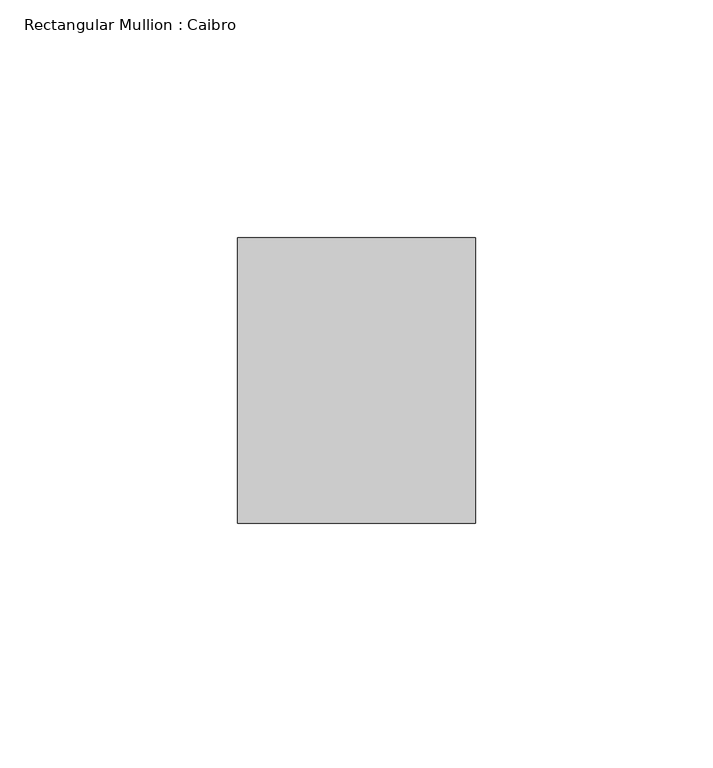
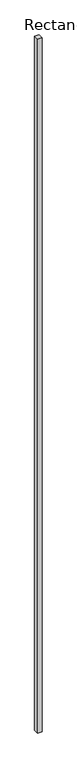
"""IFC4 building model written with IfcOpenShell, lengths in millimetres: member geometry, Rectangular Mullion : Caibro."""

import ifcopenshell
import ifcopenshell.guid

model = None  # the IFC model being written
_history = None  # IfcOwnerHistory: only IFC2X3 demands one
_inside = {}  # id of a spatial element -> (the spatial element, [elements in it])
_under = {}  # id of a project, library or spatial element -> (it, [spatial elements below it])
_declared = {}  # id of a project -> (the project, [libraries it declares])
_typed = {}  # id of a type object -> (the type object, [elements of that type])
_made_of = {}  # id of a material, layer set ... -> (it, [elements and type objects made of it])


def new_model(schema):
    """Start an empty IFC model of exactly this schema.

    Asked for "IFC4X3", IfcOpenShell would pick the latest addendum, in which some entities
    have other attributes; the version numbers below select the first issue.
    IFC2X3 requires an IfcOwnerHistory on every rooted entity: one is made here for all.
    """
    global model, _history
    if schema == "IFC4X3":
        model = ifcopenshell.file(schema_version=(4, 3, 0, 0))
    else:
        model = ifcopenshell.file(schema=schema)
    _inside.clear()
    _under.clear()
    _declared.clear()
    _typed.clear()
    _made_of.clear()
    _history = None
    if model.schema == "IFC2X3":
        org = make("IfcOrganization", Name="unknown")
        user = make(
            "IfcPersonAndOrganization",
            ThePerson=make("IfcPerson", FamilyName="unknown"),
            TheOrganization=org,
        )
        app = make(
            "IfcApplication",
            ApplicationDeveloper=org,
            Version="unknown",
            ApplicationFullName="unknown",
            ApplicationIdentifier="unknown",
        )
        _history = make(
            "IfcOwnerHistory",
            OwningUser=user,
            OwningApplication=app,
            ChangeAction="ADDED",
            CreationDate=0,
        )
    return model


def make(cls, **values):
    """One entity of the class cls with the attributes given. An attribute that is None is left unset."""
    return model.create_entity(
        cls, **{name: value for name, value in values.items() if value is not None}
    )


def rooted(cls, **values):
    """An entity with a GlobalId (a new one), such as an element, a storey or a relation."""
    return make(cls, GlobalId=ifcopenshell.guid.new(), OwnerHistory=_history, **values)


def si_unit(unit_type, name, prefix=None):
    """IfcSIUnit, for example si_unit("LENGTHUNIT", "METRE", prefix="MILLI")."""
    return make("IfcSIUnit", UnitType=unit_type, Prefix=prefix, Name=name)


def assignment(units):
    """IfcUnitAssignment: the units of a project."""
    return None if units is None else make("IfcUnitAssignment", Units=units)


def point(xyz):
    """IfcCartesianPoint."""
    return None if xyz is None else make("IfcCartesianPoint", Coordinates=xyz)


def direction(xyz):
    """IfcDirection."""
    return None if xyz is None else make("IfcDirection", DirectionRatios=xyz)


def frame(location, z_axis=None, x_axis=None):
    """IfcAxis2Placement3D, a coordinate frame: its origin and axes. An axis left out is left unset."""
    return make(
        "IfcAxis2Placement3D",
        Location=point(location),
        Axis=direction(z_axis),
        RefDirection=direction(x_axis),
    )


def origin():
    """The frame at (0, 0, 0) with its axes left unset."""
    return frame((0.0, 0.0, 0.0))


def place(relative_to, where):
    """IfcLocalPlacement: puts the frame where relative to a parent placement (None: the world)."""
    return make(
        "IfcLocalPlacement", PlacementRelTo=relative_to, RelativePlacement=where
    )


def context(
    kind, dimensions, precision=None, world=None, true_north=None, identifier=None
):
    """IfcGeometricRepresentationContext, for example the 3D "Model" context."""
    return make(
        "IfcGeometricRepresentationContext",
        ContextIdentifier=identifier,
        ContextType=kind,
        CoordinateSpaceDimension=dimensions,
        Precision=precision,
        WorldCoordinateSystem=world,
        TrueNorth=true_north,
    )


def project(units=None, contexts=None):
    """IfcProject with its units and contexts."""
    return rooted(
        "IfcProject",
        Name="project",
        RepresentationContexts=contexts,
        UnitsInContext=assignment(units),
    )


def spatial(cls, under=None, at=None, **own):
    """A site, building, storey or space (cls), placed at a placement, below another one or the project."""
    s = rooted(cls, ObjectPlacement=at, **own)
    if under is not None:
        _under.setdefault(under.id(), (under, []))[1].append(s)
    return s


def polyline(points):
    """IfcPolyline through the points."""
    return make("IfcPolyline", Points=[point(p) for p in points])


def outline(outer, holes=None, kind="AREA"):
    """IfcArbitraryClosedProfileDef: a profile drawn as a closed curve; with holes, ...WithVoids."""
    if holes is None:
        return make("IfcArbitraryClosedProfileDef", ProfileType=kind, OuterCurve=outer)
    return make(
        "IfcArbitraryProfileDefWithVoids",
        ProfileType=kind,
        OuterCurve=outer,
        InnerCurves=holes,
    )


def extrude(swept, where, along, depth):
    """IfcExtrudedAreaSolid: the profile swept, set in the frame where, extruded along a direction by depth."""
    return make(
        "IfcExtrudedAreaSolid",
        SweptArea=swept,
        Position=where,
        ExtrudedDirection=direction(along),
        Depth=depth,
    )


def shape(context_of_items, identifier, shape_type, items):
    """IfcShapeRepresentation: the items that make up one representation, for example the "Body"."""
    return make(
        "IfcShapeRepresentation",
        ContextOfItems=context_of_items,
        RepresentationIdentifier=identifier,
        RepresentationType=shape_type,
        Items=items,
    )


def source(mapping_origin, context_of_items, identifier, shape_type, items):
    """IfcRepresentationMap: a shape defined once, which mapped items show again and again."""
    return make(
        "IfcRepresentationMap",
        MappingOrigin=mapping_origin,
        MappedRepresentation=shape(context_of_items, identifier, shape_type, items),
    )


def transform(
    local_origin,
    x_axis=None,
    y_axis=None,
    z_axis=None,
    scale=None,
    scale2=None,
    scale3=None,
    uniform=True,
):
    """IfcCartesianTransformationOperator3D, or its non-uniform kind. x_axis, y_axis, z_axis: its Axis1, 2, 3."""
    if uniform:
        return make(
            "IfcCartesianTransformationOperator3D",
            Axis1=direction(x_axis),
            Axis2=direction(y_axis),
            LocalOrigin=point(local_origin),
            Scale=scale,
            Axis3=direction(z_axis),
        )
    return make(
        "IfcCartesianTransformationOperator3DnonUniform",
        Axis1=direction(x_axis),
        Axis2=direction(y_axis),
        LocalOrigin=point(local_origin),
        Scale=scale,
        Axis3=direction(z_axis),
        Scale2=scale2,
        Scale3=scale3,
    )


def mapped(mapping_source, mapping_target):
    """IfcMappedItem: shows the shape of a source again, moved by a transform."""
    return make(
        "IfcMappedItem", MappingSource=mapping_source, MappingTarget=mapping_target
    )


def made_of(thing, what):
    """Note that an element or type object is made of a material, layer set ...; save() writes the relation."""
    if what is not None:
        _made_of.setdefault(what.id(), (what, []))[1].append(thing)
    return thing


def element(
    cls,
    number,
    at=None,
    inside=None,
    cuts=None,
    type_object=None,
    material=None,
    context=None,
    identifier="Body",
    shape_type=None,
    held_by="IfcProductDefinitionShape",
    body=None,
    shapes=None,
    **own,
):
    """One element of the class cls, such as IfcWall. Its Tag is "e" and its number.

    at: its placement. inside: the storey or other place that contains it. cuts: it is an
    opening in that element (IfcRelVoidsElement). A single representation is given by context,
    identifier, shape_type and body (its items); several are given by shapes. held_by: the class
    of the entity that holds the representations. save() writes the other relations.
    """
    e = rooted(cls, Tag="e%d" % number, ObjectPlacement=at, **own)
    if body is not None:
        shapes = [shape(context, identifier, shape_type, body)]
    if shapes is not None:
        e.Representation = make(held_by, Representations=shapes)
    if inside is not None:
        _inside.setdefault(inside.id(), (inside, []))[1].append(e)
    if cuts is not None:
        rooted(
            "IfcRelVoidsElement", RelatingBuildingElement=cuts, RelatedOpeningElement=e
        )
    if type_object is not None:
        _typed.setdefault(type_object.id(), (type_object, []))[1].append(e)
    return made_of(e, material)


def aggregate(whole, parts):
    """IfcRelAggregates: a whole, such as a stair, and the parts it consists of."""
    return rooted("IfcRelAggregates", RelatingObject=whole, RelatedObjects=parts)


def save(model, path):
    """Write the relations noted so far, then the file.

    IfcRelAggregates (storeys below a building ...), IfcRelContainedInSpatialStructure (elements
    in a storey), IfcRelDefinesByType, IfcRelAssociatesMaterial and IfcRelDeclares: one each for
    every whole, place, type object, material and project.
    """
    for whole, parts in _under.values():
        aggregate(whole, parts)
    for where, things in _inside.values():
        rooted(
            "IfcRelContainedInSpatialStructure",
            RelatedElements=things,
            RelatingStructure=where,
        )
    for kind, things in _typed.values():
        rooted("IfcRelDefinesByType", RelatedObjects=things, RelatingType=kind)
    for what, things in _made_of.values():
        rooted("IfcRelAssociatesMaterial", RelatedObjects=things, RelatingMaterial=what)
    for by, libraries in _declared.values():
        rooted("IfcRelDeclares", RelatingContext=by, RelatedDefinitions=libraries)
    model.write(path)


def rectangular_mullion_caibro_d90884e6(model_context):
    return source(origin(), model_context, "Body", "SweptSolid", [
        extrude(outline(polyline([(-50.0, -60.0), (-50.0, 0.0), (0.0, 0.0), (0.0, -60.0), (-50.0, -60.0)])), frame((0.0, 0.0, -8478.8498048), z_axis=(0.0, 0.0, 1.0), x_axis=(1.0, 0.0, 0.0)), (0.0, 0.0, 1.0), 8478.8498048),
    ])


if __name__ == "__main__":
    model = new_model("IFC4")
    model_context = context("Model", 3, world=origin())
    ifc_project = project(units=[si_unit("LENGTHUNIT", "METRE", prefix="MILLI")], contexts=[model_context])
    site = spatial("IfcSite", under=ifc_project)
    building = spatial("IfcBuilding", under=site)
    placement = place(None, origin())
    rectangular_mullion_caibro_shape = rectangular_mullion_caibro_d90884e6(model_context)
    element("IfcMember", 1, ObjectType="Rectangular Mullion : Caibro", at=placement, inside=building, context=model_context, shape_type="MappedRepresentation", body=[
        mapped(rectangular_mullion_caibro_shape, transform((0.0, 0.0, 0.0), x_axis=(1.0, 0.0, 0.0), y_axis=(0.0, 1.0, 0.0), z_axis=(0.0, 0.0, 1.0))),
    ])
    save(model, "model.ifc")
